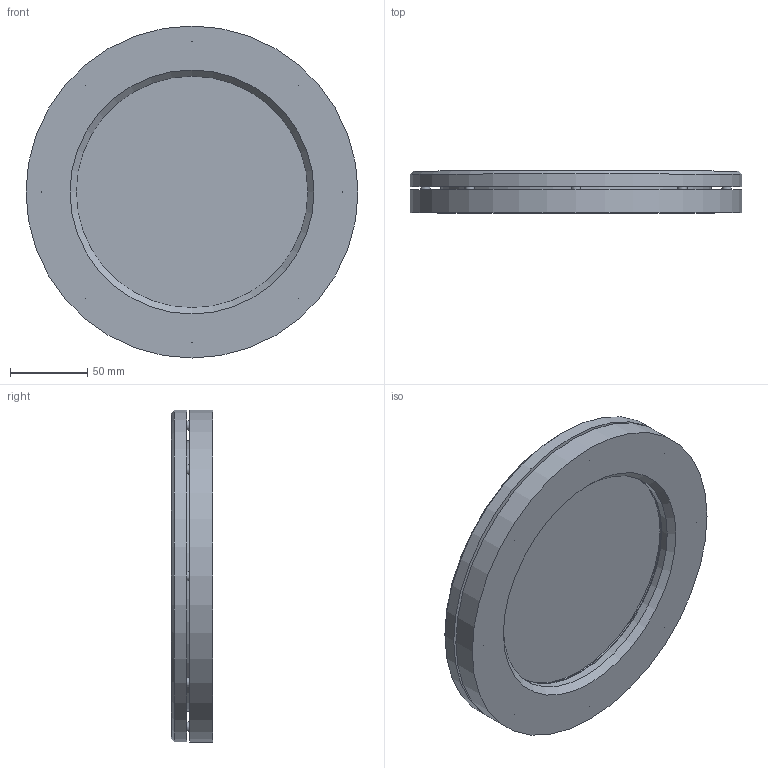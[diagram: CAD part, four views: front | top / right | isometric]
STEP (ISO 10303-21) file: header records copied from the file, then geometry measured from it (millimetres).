
FILE_DESCRIPTION(/* description */ ('Unknown'),/* implementation_level */ '2;1');
FILE_NAME(/* name */ 'Armatur 28120 drucklos DN 125',/* time_stamp */ '2016-01-20T07:51:53+01:00',/* author */ ('Unknown'),/* organization */ ('Unknown'),/* preprocessor_version */ 'ST-DEVELOPER v16.7',/* originating_system */ 'DEX',/* authorisation */ $);
FILE_SCHEMA (('CONFIG_CONTROL_DESIGN'));
Length unit declared in the file: millimetre
Products named in the file (6): 0206.234.38_01; 1775.094.38_01; 0863.178.38_01; 1346.204.38_01; 1345.204.38_01; Screw_DIN_7984_M6x16_v10.50
Assembly tree (13 placements, depth 2):
  0206.234.38_01
    1775.094.38_01
    0863.178.38_01  x2
    1346.204.38_01
    1345.204.38_01
    Screw_DIN_7984_M6x16_v10.50  x8
Bounding box: 215 x 27 x 215 mm (x, y, z)
Volume: 632826.2 mm3; surface area: 192799.9 mm2
Topology: 13 solids, 13 shells, 332 faces, 724 edges, 452 vertices
Faces by surface type: plane 156, cone 77, cylinder 67, torus 24, sphere 8
Full cylindrical faces by diameter (mm): 4.773 x8, 5 x8, 6 x16, 7 x8, 10 x8, 11 x8, 150 x4, 175 x1, 177 x2, 178 x2, 215 x2
Entity records: 2891 total; most frequent: CARTESIAN_POINT 487, DIRECTION 460, ORIENTED_EDGE 280, AXIS2_PLACEMENT_3D 215, EDGE_LOOP 204, FACE_BOUND 204, EDGE_CURVE 140, VERTEX_POINT 122
